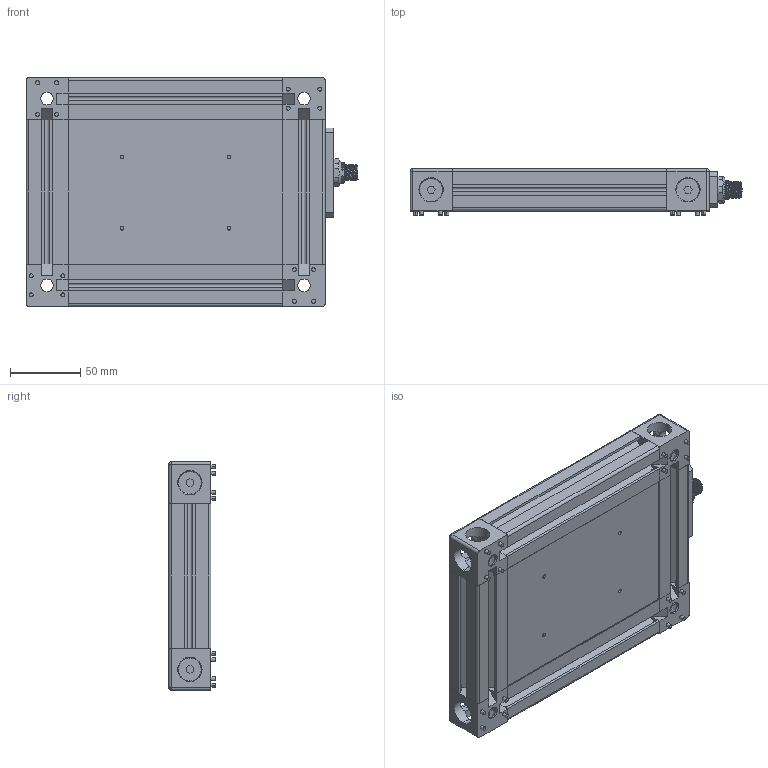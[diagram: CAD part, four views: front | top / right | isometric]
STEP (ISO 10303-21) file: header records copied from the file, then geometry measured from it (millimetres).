
FILE_DESCRIPTION (( 'STEP AP214' ), '1' );
FILE_NAME ('SOBL(C)-150 x 100_R2.step', '2019-06-13T11:37:40', ( '' ), ( '' ), 'SwSTEP 2.0', 'SolidWorks 2019', '' );
FILE_SCHEMA (( 'AUTOMOTIVE_DESIGN' ));
Length unit declared in the file: millimetre
Products named in the file (13): BAR-30_103; M12_Male; Screws_FB08.0-015; M12 Nut; Input Mounting Plate_A; SOBL-BC_150 x 100; SOBL(C)-150 x 100_R2; BAR-30_153; Screw holder; Screws -- short_FB08.0-015; Input Assembly; Corner Cube-30; SOBL-BP-(50-600)_153 x 103
Assembly tree (26 placements, depth 3):
  SOBL(C)-150 x 100_R2
    Corner Cube-30  x4
    BAR-30_103  x2
    BAR-30_153  x2
    Screws_FB08.0-015  x8
    SOBL-BC_150 x 100
    Input Assembly
      M12_Male
      Input Mounting Plate_A
      Screws -- short_FB08.0-015  x2
      Screw holder  x2
      M12 Nut
    SOBL-BP-(50-600)_153 x 103
Bounding box: 236.47 x 33 x 163 mm (x, y, z)
Volume: 354081.2 mm3; surface area: 295523.9 mm2
Topology: 25 solids, 26 shells, 1359 faces, 3618 edges, 2365 vertices
Faces by surface type: plane 594, cylinder 580, bspline 102, cone 83
Entity records: 46785 total; most frequent: CARTESIAN_POINT 25366, ORIENTED_EDGE 4024, DIRECTION 3760, EDGE_CURVE 2012, VERTEX_POINT 1326, AXIS2_PLACEMENT_3D 1318, LINE 1124, VECTOR 1124
